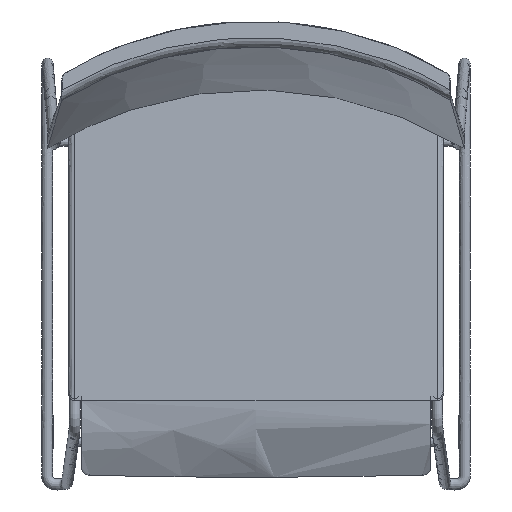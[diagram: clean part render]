
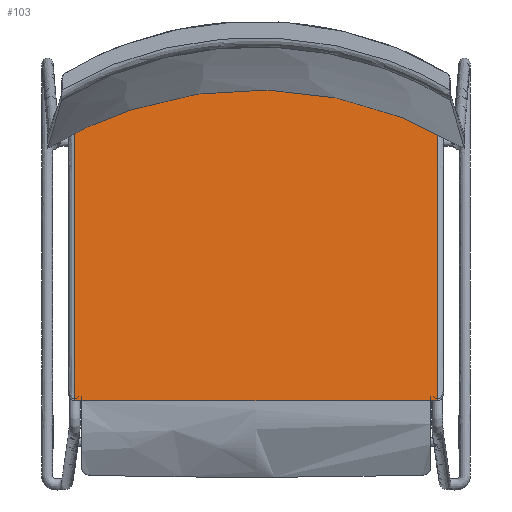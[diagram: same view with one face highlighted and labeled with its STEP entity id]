
A CAD part, top view. The second image highlights one B-rep face of the part: STEP entity #103.
In plain terms, the highlighted planar face has unit normal (0, 0.07, 0.998).
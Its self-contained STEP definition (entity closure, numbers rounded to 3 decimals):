
#103=ADVANCED_FACE('',(#227),#1816,.T.);
#227=FACE_OUTER_BOUND('',#351,.T.);
#351=EDGE_LOOP('',(#496,#497,#498,#499,#500,#501));
#496=ORIENTED_EDGE('',*,*,#1060,.F.);
#497=ORIENTED_EDGE('',*,*,#1072,.T.);
#498=ORIENTED_EDGE('',*,*,#1062,.T.);
#499=ORIENTED_EDGE('',*,*,#1071,.T.);
#500=ORIENTED_EDGE('',*,*,#1073,.F.);
#501=ORIENTED_EDGE('',*,*,#1070,.F.);
#1060=EDGE_CURVE('',#1634,#1635,#1508,.T.);
#1062=EDGE_CURVE('',#1638,#1639,#1510,.T.);
#1070=EDGE_CURVE('',#1635,#1645,#1516,.T.);
#1071=EDGE_CURVE('',#1639,#1646,#1517,.T.);
#1072=EDGE_CURVE('',#1634,#1638,#1518,.T.);
#1073=EDGE_CURVE('',#1645,#1646,#1519,.T.);
#1508=B_SPLINE_CURVE_WITH_KNOTS('',1,(#3085,#3086),.UNSPECIFIED.,.F.,.F.,
(2,2),(0.005,8.421),.UNSPECIFIED.);
#1510=B_SPLINE_CURVE_WITH_KNOTS('',3,(#3123,#3124,#3125,#3126),
 .UNSPECIFIED.,.F.,.F.,(4,4),(0.,8.416),.UNSPECIFIED.);
#1516=B_SPLINE_CURVE_WITH_KNOTS('',1,(#3213,#3214),.UNSPECIFIED.,.F.,.F.,
(2,2),(81.964,355.615),.UNSPECIFIED.);
#1517=B_SPLINE_CURVE_WITH_KNOTS('',1,(#3215,#3216),.UNSPECIFIED.,.F.,.F.,
(2,2),(81.964,355.615),.UNSPECIFIED.);
#1518=B_SPLINE_CURVE_WITH_KNOTS('',1,(#3217,#3218),.UNSPECIFIED.,.F.,.F.,
(2,2),(-406.174,0.),.UNSPECIFIED.);
#1519=B_SPLINE_CURVE_WITH_KNOTS('',3,(#3219,#3220,#3221,#3222,#3223,#3224,
#3225,#3226,#3227,#3228,#3229,#3230,#3231,#3232,#3233,#3234,#3235,#3236,
#3237,#3238,#3239,#3240,#3241,#3242,#3243,#3244,#3245,#3246,#3247,#3248,
#3249,#3250,#3251,#3252,#3253,#3254,#3255,#3256,#3257,#3258,#3259,#3260,
#3261,#3262,#3263,#3264,#3265,#3266,#3267,#3268,#3269,#3270,#3271,#3272,
#3273,#3274,#3275,#3276,#3277,#3278,#3279,#3280,#3281,#3282,#3283,#3284,
#3285,#3286,#3287,#3288,#3289,#3290),.UNSPECIFIED.,.F.,.F.,(4,2,2,2,2,2,
2,2,2,2,2,2,2,2,2,2,2,2,2,2,2,2,2,2,2,2,2,2,2,2,2,2,2,2,2,4),(-448.811,
-441.929,-435.04,-421.269,-407.496,
-400.604,-393.716,-379.948,-366.182,
-352.411,-338.634,-324.858,-311.08,
-297.298,-283.513,-255.951,-242.175,
-228.396,-214.624,-200.849,-187.072,
-173.294,-159.52,-145.743,-131.966,-118.187,
-104.423,-90.656,-76.889,-63.121,
-49.337,-35.55,-28.662,-21.768,
-14.872,-7.983),.UNSPECIFIED.);
#1634=VERTEX_POINT('',#3007);
#1635=VERTEX_POINT('',#3008);
#1638=VERTEX_POINT('',#3011);
#1639=VERTEX_POINT('',#3012);
#1645=VERTEX_POINT('',#3018);
#1646=VERTEX_POINT('',#3019);
#1816=PLANE('',#1960);
#1960=AXIS2_PLACEMENT_3D('',#2094,#2005,$);
#2005=DIRECTION('',(0.,0.07,0.998));
#2094=CARTESIAN_POINT('',(-291.,-63.597,467.235));
#3007=CARTESIAN_POINT('',(-203.,71.552,457.785));
#3008=CARTESIAN_POINT('',(-211.416,71.552,457.785));
#3011=CARTESIAN_POINT('',(203.,71.552,457.785));
#3012=CARTESIAN_POINT('',(211.416,71.552,457.785));
#3018=CARTESIAN_POINT('',(-211.416,386.519,435.76));
#3019=CARTESIAN_POINT('',(211.416,386.519,435.76));
#3085=CARTESIAN_POINT('',(-203.,71.552,457.785));
#3086=CARTESIAN_POINT('',(-211.416,71.552,457.785));
#3123=CARTESIAN_POINT('',(203.,71.552,457.785));
#3124=CARTESIAN_POINT('',(205.805,71.552,457.785));
#3125=CARTESIAN_POINT('',(208.611,71.552,457.785));
#3126=CARTESIAN_POINT('',(211.416,71.552,457.785));
#3213=CARTESIAN_POINT('',(-211.416,71.552,457.785));
#3214=CARTESIAN_POINT('',(-211.416,386.519,435.76));
#3215=CARTESIAN_POINT('',(211.416,71.552,457.785));
#3216=CARTESIAN_POINT('',(211.416,386.519,435.76));
#3217=CARTESIAN_POINT('',(-203.,71.552,457.785));
#3218=CARTESIAN_POINT('',(203.,71.552,457.785));
#3219=CARTESIAN_POINT('',(-211.416,386.519,435.76));
#3220=CARTESIAN_POINT('',(-209.4,387.612,435.684));
#3221=CARTESIAN_POINT('',(-207.375,388.688,435.608));
#3222=CARTESIAN_POINT('',(-203.307,390.812,435.46));
#3223=CARTESIAN_POINT('',(-201.264,391.858,435.387));
#3224=CARTESIAN_POINT('',(-195.112,394.949,435.171));
#3225=CARTESIAN_POINT('',(-190.982,396.945,435.031));
#3226=CARTESIAN_POINT('',(-182.656,400.811,434.761));
#3227=CARTESIAN_POINT('',(-178.465,402.678,434.63));
#3228=CARTESIAN_POINT('',(-172.131,405.384,434.441));
#3229=CARTESIAN_POINT('',(-170.013,406.27,434.379));
#3230=CARTESIAN_POINT('',(-165.762,408.009,434.257));
#3231=CARTESIAN_POINT('',(-163.63,408.861,434.198));
#3232=CARTESIAN_POINT('',(-157.219,411.369,434.022));
#3233=CARTESIAN_POINT('',(-152.922,412.973,433.91));
#3234=CARTESIAN_POINT('',(-144.275,416.05,433.695));
#3235=CARTESIAN_POINT('',(-139.93,417.52,433.592));
#3236=CARTESIAN_POINT('',(-131.191,420.327,433.396));
#3237=CARTESIAN_POINT('',(-126.801,421.663,433.303));
#3238=CARTESIAN_POINT('',(-117.976,424.199,433.125));
#3239=CARTESIAN_POINT('',(-113.545,425.398,433.041));
#3240=CARTESIAN_POINT('',(-104.642,427.66,432.883));
#3241=CARTESIAN_POINT('',(-100.176,428.721,432.809));
#3242=CARTESIAN_POINT('',(-91.207,430.705,432.67));
#3243=CARTESIAN_POINT('',(-86.709,431.627,432.606));
#3244=CARTESIAN_POINT('',(-77.681,433.332,432.487));
#3245=CARTESIAN_POINT('',(-73.156,434.114,432.432));
#3246=CARTESIAN_POINT('',(-64.076,435.537,432.332));
#3247=CARTESIAN_POINT('',(-59.527,436.178,432.288));
#3248=CARTESIAN_POINT('',(-45.849,437.889,432.168));
#3249=CARTESIAN_POINT('',(-36.717,438.744,432.108));
#3250=CARTESIAN_POINT('',(-22.962,439.601,432.048));
#3251=CARTESIAN_POINT('',(-18.376,439.816,432.033));
#3252=CARTESIAN_POINT('',(-9.193,440.102,432.013));
#3253=CARTESIAN_POINT('',(-4.601,440.173,432.008));
#3254=CARTESIAN_POINT('',(4.584,440.173,432.008));
#3255=CARTESIAN_POINT('',(9.173,440.102,432.013));
#3256=CARTESIAN_POINT('',(18.353,439.817,432.033));
#3257=CARTESIAN_POINT('',(22.939,439.603,432.048));
#3258=CARTESIAN_POINT('',(32.107,439.032,432.088));
#3259=CARTESIAN_POINT('',(36.684,438.675,432.113));
#3260=CARTESIAN_POINT('',(45.832,437.819,432.173));
#3261=CARTESIAN_POINT('',(50.396,437.32,432.208));
#3262=CARTESIAN_POINT('',(59.511,436.18,432.287));
#3263=CARTESIAN_POINT('',(64.056,435.54,432.332));
#3264=CARTESIAN_POINT('',(73.13,434.118,432.432));
#3265=CARTESIAN_POINT('',(77.654,433.336,432.486));
#3266=CARTESIAN_POINT('',(86.681,431.632,432.605));
#3267=CARTESIAN_POINT('',(91.178,430.711,432.67));
#3268=CARTESIAN_POINT('',(100.148,428.727,432.809));
#3269=CARTESIAN_POINT('',(104.615,427.666,432.883));
#3270=CARTESIAN_POINT('',(113.514,425.406,433.041));
#3271=CARTESIAN_POINT('',(117.941,424.208,433.125));
#3272=CARTESIAN_POINT('',(126.762,421.674,433.302));
#3273=CARTESIAN_POINT('',(131.15,420.34,433.395));
#3274=CARTESIAN_POINT('',(139.889,417.534,433.591));
#3275=CARTESIAN_POINT('',(144.234,416.064,433.694));
#3276=CARTESIAN_POINT('',(152.881,412.988,433.909));
#3277=CARTESIAN_POINT('',(157.178,411.384,434.021));
#3278=CARTESIAN_POINT('',(165.731,408.04,434.255));
#3279=CARTESIAN_POINT('',(169.981,406.302,434.377));
#3280=CARTESIAN_POINT('',(178.432,402.693,434.629));
#3281=CARTESIAN_POINT('',(182.627,400.824,434.76));
#3282=CARTESIAN_POINT('',(188.877,397.922,434.963));
#3283=CARTESIAN_POINT('',(190.951,396.94,435.031));
#3284=CARTESIAN_POINT('',(195.086,394.942,435.171));
#3285=CARTESIAN_POINT('',(197.147,393.926,435.242));
#3286=CARTESIAN_POINT('',(201.253,391.863,435.386));
#3287=CARTESIAN_POINT('',(203.298,390.816,435.46));
#3288=CARTESIAN_POINT('',(207.371,388.69,435.608));
#3289=CARTESIAN_POINT('',(209.398,387.613,435.684));
#3290=CARTESIAN_POINT('',(211.416,386.519,435.76));
